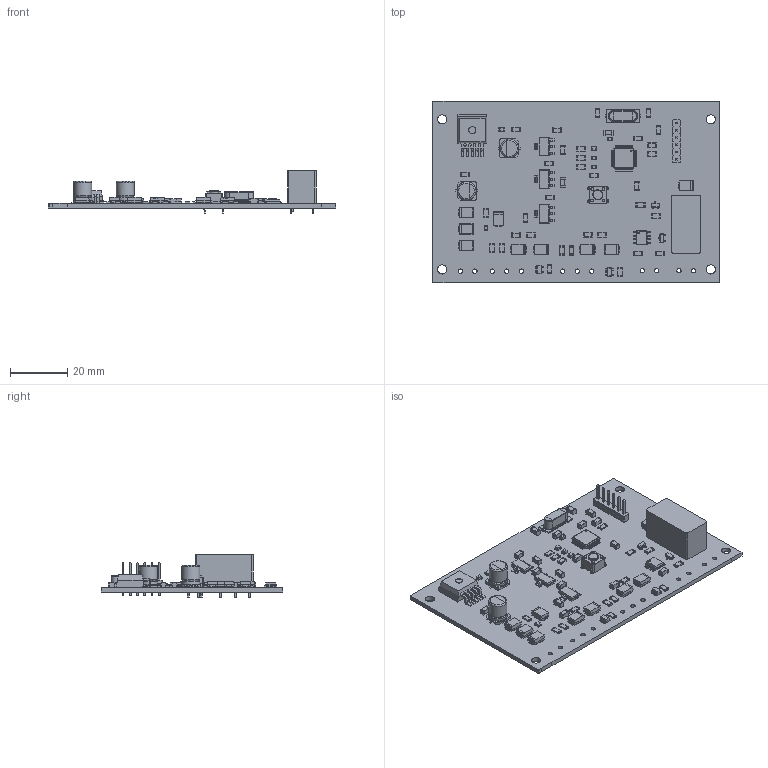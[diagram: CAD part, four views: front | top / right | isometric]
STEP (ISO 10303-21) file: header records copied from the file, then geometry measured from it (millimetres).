
FILE_DESCRIPTION(('KiCad electronic assembly'),'2;1');
FILE_NAME('APPS.step','2020-11-26T21:03:39',('An Author'),('A Company'), 'Open CASCADE STEP processor 6.9','KiCad to STEP converter','Unknown' );
FILE_SCHEMA(('AUTOMOTIVE_DESIGN { 1 0 10303 214 1 1 1 1 }'));
Length unit declared in the file: millimetre
Products named in the file (34): Open CASCADE STEP translator 6.9 1; R_1206_3216Metric; SOLID; Crystal_SMD_HC49-SD; COMPOUND; SOT-223; SOT-23-5; SOIC-8_3.9x4.9mm_P1.27mm; TO-263-5_TabPin3; SW_PUSH_6mm; SOT-23; L_0805_2012Metric; Relay_DPDT_Finder_30.22; PinHeader_1x06_P2.54mm_Vertical; D_SMB; LED_0805_2012Metric; C_1206_3216Metric; CP_Elec_6.3x7.7; LQFP-48_7x7mm_P0.5mm
Assembly tree (83 placements, depth 3):
  Open CASCADE STEP translator 6.9 1
    R_1206_3216Metric  x17
      SOLID
    Crystal_SMD_HC49-SD
      COMPOUND
    SOT-223  x3
      SOLID
    SOT-23-5  x2
      SOLID
    SOIC-8_3.9x4.9mm_P1.27mm
      SOLID
    TO-263-5_TabPin3
      SOLID
    SW_PUSH_6mm
      SOLID
    SOT-23  x2
      SOLID
    L_0805_2012Metric
      SOLID
    Relay_DPDT_Finder_30.22
      SOLID
    PinHeader_1x06_P2.54mm_Vertical
      SOLID
    D_SMB  x9
      SOLID
    LED_0805_2012Metric  x5
      SOLID
    C_1206_3216Metric  x18
      SOLID
    CP_Elec_6.3x7.7  x2
      SOLID
    LQFP-48_7x7mm_P0.5mm
      SOLID
    COMPOUND
Bounding box: 100.71 x 63.5 x 14.9 mm (x, y, z)
Volume: 14506.1 mm3; surface area: 18500.9 mm2
Topology: 70 solids, 70 shells, 3728 faces, 9680 edges, 6179 vertices
Faces by surface type: plane 2445, cylinder 904, bspline 366, torus 11, revolution 2
Full cylindrical faces by diameter (mm): 0.5 x1, 0.6 x1, 0.8 x8, 1 x10, 1.1 x4, 1.52 x12, 2.5 x1, 3.2 x4, 3.5 x1, 6.3 x4
Entity records: 150646 total; most frequent: CARTESIAN_POINT 36567, DIRECTION 18460, LINE 12678, VECTOR 12678, ORIENTED_EDGE 10056, PCURVE 10056, DEFINITIONAL_REPRESENTATION 10056, EDGE_CURVE 5028
